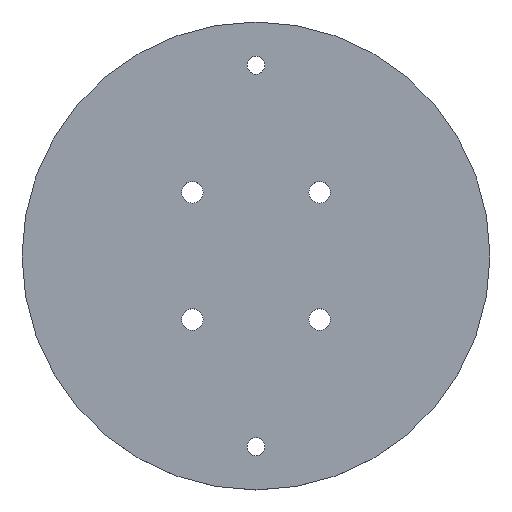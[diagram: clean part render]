
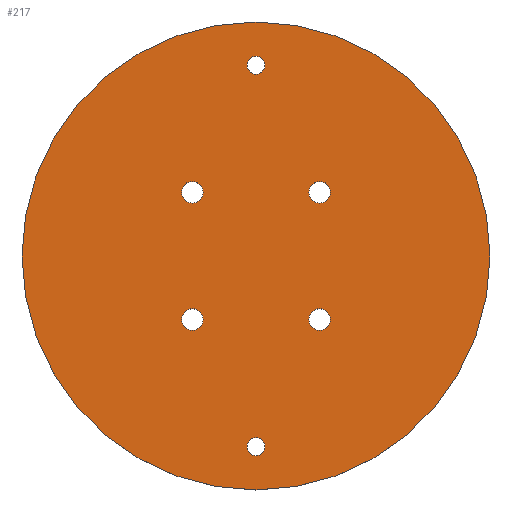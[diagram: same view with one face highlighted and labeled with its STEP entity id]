
A CAD part, top view. The second image highlights one B-rep face of the part: STEP entity #217.
In plain terms, the highlighted planar face has unit normal (0, 0, 1).
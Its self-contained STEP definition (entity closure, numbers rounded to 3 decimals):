
#14=FACE_BOUND('',#56,.T.);
#15=FACE_BOUND('',#57,.T.);
#16=FACE_BOUND('',#58,.T.);
#17=FACE_BOUND('',#59,.T.);
#18=FACE_BOUND('',#60,.T.);
#19=FACE_BOUND('',#61,.T.);
#26=PLANE('',#264);
#44=FACE_OUTER_BOUND('',#55,.T.);
#55=EDGE_LOOP('',(#180));
#56=EDGE_LOOP('',(#181));
#57=EDGE_LOOP('',(#182));
#58=EDGE_LOOP('',(#183));
#59=EDGE_LOOP('',(#184));
#60=EDGE_LOOP('',(#185));
#61=EDGE_LOOP('',(#186));
#89=CIRCLE('',#243,1.25);
#92=CIRCLE('',#248,1.25);
#93=CIRCLE('',#250,1.5);
#95=CIRCLE('',#253,1.5);
#97=CIRCLE('',#256,1.5);
#99=CIRCLE('',#259,1.5);
#101=CIRCLE('',#262,32.5);
#105=VERTEX_POINT('',#339);
#108=VERTEX_POINT('',#349);
#109=VERTEX_POINT('',#353);
#111=VERTEX_POINT('',#359);
#113=VERTEX_POINT('',#365);
#115=VERTEX_POINT('',#371);
#117=VERTEX_POINT('',#377);
#123=EDGE_CURVE('',#105,#105,#89,.T.);
#128=EDGE_CURVE('',#108,#108,#92,.T.);
#129=EDGE_CURVE('',#109,#109,#93,.T.);
#132=EDGE_CURVE('',#111,#111,#95,.T.);
#135=EDGE_CURVE('',#113,#113,#97,.T.);
#138=EDGE_CURVE('',#115,#115,#99,.T.);
#141=EDGE_CURVE('',#117,#117,#101,.T.);
#180=ORIENTED_EDGE('',*,*,#141,.T.);
#181=ORIENTED_EDGE('',*,*,#123,.T.);
#182=ORIENTED_EDGE('',*,*,#128,.T.);
#183=ORIENTED_EDGE('',*,*,#138,.T.);
#184=ORIENTED_EDGE('',*,*,#135,.T.);
#185=ORIENTED_EDGE('',*,*,#132,.T.);
#186=ORIENTED_EDGE('',*,*,#129,.T.);
#217=ADVANCED_FACE('',(#44,#14,#15,#16,#17,#18,#19),#26,.T.);
#243=AXIS2_PLACEMENT_3D('',#341,#278,#279);
#248=AXIS2_PLACEMENT_3D('',#351,#290,#291);
#250=AXIS2_PLACEMENT_3D('',#354,#294,#295);
#253=AXIS2_PLACEMENT_3D('',#360,#301,#302);
#256=AXIS2_PLACEMENT_3D('',#366,#308,#309);
#259=AXIS2_PLACEMENT_3D('',#372,#315,#316);
#262=AXIS2_PLACEMENT_3D('',#378,#322,#323);
#264=AXIS2_PLACEMENT_3D('',#382,#327,#328);
#278=DIRECTION('center_axis',(0.,0.,-1.));
#279=DIRECTION('ref_axis',(-1.,0.,0.));
#290=DIRECTION('center_axis',(0.,0.,-1.));
#291=DIRECTION('ref_axis',(-1.,0.,0.));
#294=DIRECTION('center_axis',(0.,0.,-1.));
#295=DIRECTION('ref_axis',(-1.,0.,0.));
#301=DIRECTION('center_axis',(0.,0.,-1.));
#302=DIRECTION('ref_axis',(-1.,0.,0.));
#308=DIRECTION('center_axis',(0.,0.,-1.));
#309=DIRECTION('ref_axis',(-1.,0.,0.));
#315=DIRECTION('center_axis',(0.,0.,-1.));
#316=DIRECTION('ref_axis',(-1.,0.,0.));
#322=DIRECTION('center_axis',(0.,0.,1.));
#323=DIRECTION('ref_axis',(1.,0.,0.));
#327=DIRECTION('center_axis',(0.,0.,1.));
#328=DIRECTION('ref_axis',(1.,0.,0.));
#339=CARTESIAN_POINT('',(1.25,-26.5,2.5));
#341=CARTESIAN_POINT('Origin',(0.,-26.5,2.5));
#349=CARTESIAN_POINT('',(1.25,26.5,2.5));
#351=CARTESIAN_POINT('Origin',(0.,26.5,2.5));
#353=CARTESIAN_POINT('',(10.339,-8.839,2.5));
#354=CARTESIAN_POINT('Origin',(8.839,-8.839,2.5));
#359=CARTESIAN_POINT('',(-7.339,-8.839,2.5));
#360=CARTESIAN_POINT('Origin',(-8.839,-8.839,2.5));
#365=CARTESIAN_POINT('',(-7.339,8.839,2.5));
#366=CARTESIAN_POINT('Origin',(-8.839,8.839,2.5));
#371=CARTESIAN_POINT('',(10.339,8.839,2.5));
#372=CARTESIAN_POINT('Origin',(8.839,8.839,2.5));
#377=CARTESIAN_POINT('',(-32.5,0.,2.5));
#378=CARTESIAN_POINT('Origin',(0.,0.,2.5));
#382=CARTESIAN_POINT('Origin',(0.,0.,2.5));
